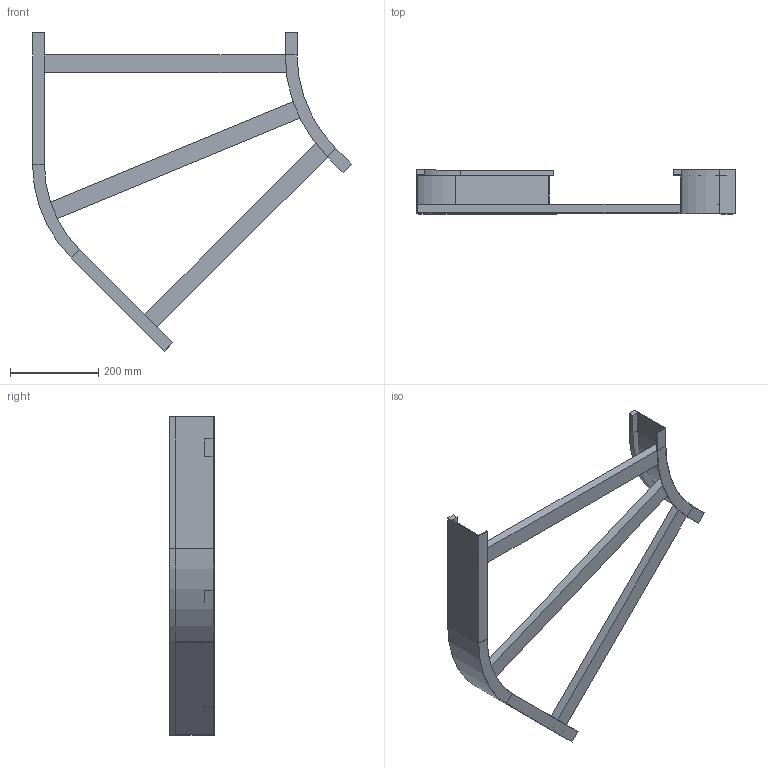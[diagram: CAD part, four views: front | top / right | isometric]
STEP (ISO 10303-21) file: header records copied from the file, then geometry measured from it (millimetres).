
FILE_DESCRIPTION (( 'STEP AP214' ), '1' );
FILE_NAME ('B2_11B3D600.step', '2025-02-21T15:13:05', ( '' ), ( '' ), 'SwSTEP 2.0', 'SolidWorks 2023', '' );
FILE_SCHEMA (( 'AUTOMOTIVE_DESIGN' ));
Length unit declared in the file: millimetre
Products named in the file (5): TRAVERSINO_L644; B2_LONGH.INTERNO 45°_H100_R300; B2_11B3D600; TRAVERSINO_600; B2_LONGH.ESTERNO 45°_H100_R300+600
Assembly tree (5 placements, depth 2):
  B2_11B3D600
    B2_LONGH.INTERNO 45°_H100_R300
    B2_LONGH.ESTERNO 45°_H100_R300+600
    TRAVERSINO_600  x2
    TRAVERSINO_L644
Bounding box: 723.22 x 100 x 721.75 mm (x, y, z)
Volume: 2003546.5 mm3; surface area: 562916.4 mm2
Topology: 5 solids, 5 shells, 70 faces, 148 edges, 88 vertices
Faces by surface type: plane 62, cylinder 8
Entity records: 1822 total; most frequent: DIRECTION 296, CARTESIAN_POINT 288, ORIENTED_EDGE 272, EDGE_CURVE 136, LINE 120, VECTOR 120, AXIS2_PLACEMENT_3D 88, VERTEX_POINT 80
